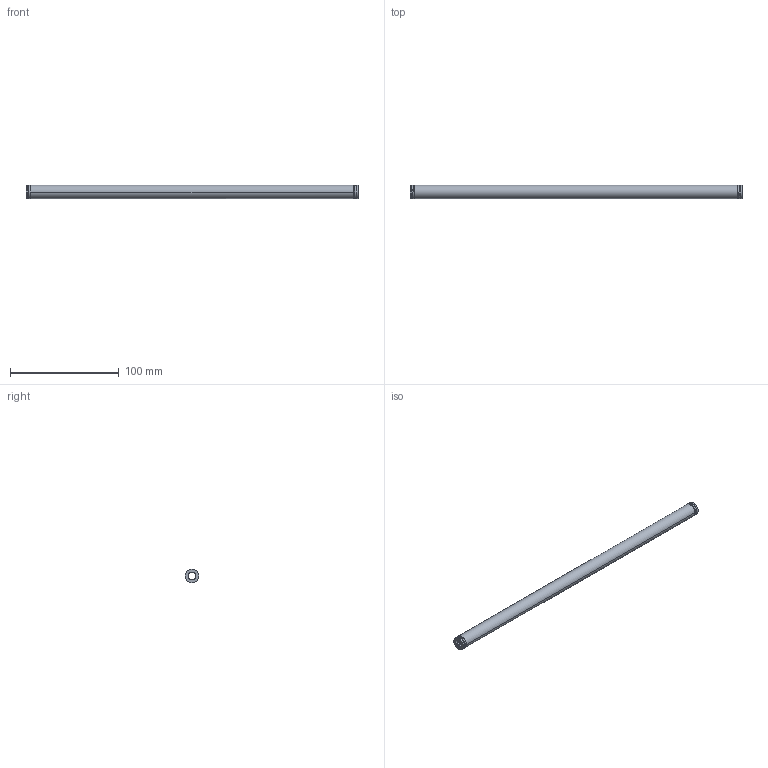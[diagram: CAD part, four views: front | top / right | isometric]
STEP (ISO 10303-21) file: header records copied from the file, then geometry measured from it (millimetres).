
FILE_DESCRIPTION(('CATIA V5 STEP Exchange'),'2;1');
FILE_NAME('C:\Users\Utente\Desktop\IO LAVORO\3D X SITO CF\X SITO\3D files 392B\392-B13-305.stp','2021-08-12T13:29:45+00:00',('none'),('none'),'CATIA Version 5 Release 20 GA (IN-10)','CATIA V5 STEP AP203','none');
FILE_SCHEMA(('CONFIG_CONTROL_DESIGN'));
Length unit declared in the file: millimetre
Products named in the file (1): 392-B13-305
Bounding box: 305 x 12.29 x 12.2 mm (x, y, z)
Volume: 23045.7 mm3; surface area: 19199.7 mm2
Topology: 1 solids, 1 shells, 38 faces, 92 edges, 64 vertices
Faces by surface type: cylinder 28, plane 10
Entity records: 1563 total; most frequent: CARTESIAN_POINT 670, ORIENTED_EDGE 184, DIRECTION 131, EDGE_CURVE 92, AXIS2_PLACEMENT_3D 66, VERTEX_POINT 64, EDGE_LOOP 56, ADVANCED_FACE 38
